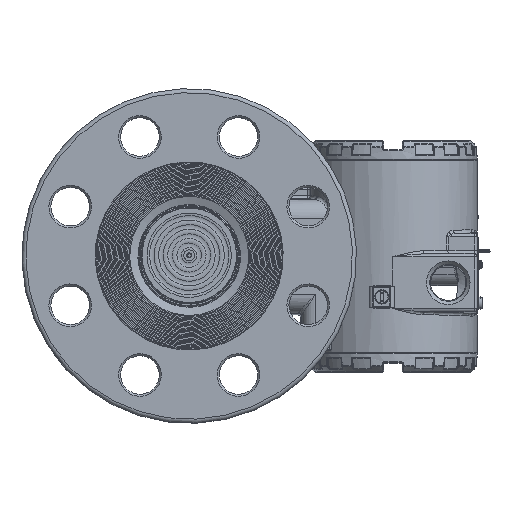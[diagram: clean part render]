
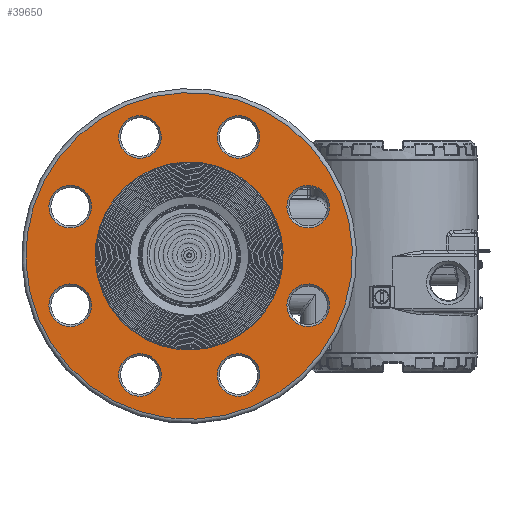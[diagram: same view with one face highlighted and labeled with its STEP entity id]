
A CAD part, top view. The second image highlights one B-rep face of the part: STEP entity #39650.
In plain terms, the highlighted planar face has unit normal (0, 0, 1).
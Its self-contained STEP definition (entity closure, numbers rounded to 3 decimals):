
#774=FACE_BOUND('',#6745,.T.);
#775=FACE_BOUND('',#6746,.T.);
#776=FACE_BOUND('',#6747,.T.);
#777=FACE_BOUND('',#6748,.T.);
#778=FACE_BOUND('',#6749,.T.);
#779=FACE_BOUND('',#6750,.T.);
#780=FACE_BOUND('',#6751,.T.);
#781=FACE_BOUND('',#6752,.T.);
#782=FACE_BOUND('',#6753,.T.);
#2811=PLANE('',#44063);
#4035=FACE_OUTER_BOUND('',#6744,.T.);
#6744=EDGE_LOOP('',(#30248));
#6745=EDGE_LOOP('',(#30249,#30250));
#6746=EDGE_LOOP('',(#30251));
#6747=EDGE_LOOP('',(#30252));
#6748=EDGE_LOOP('',(#30253));
#6749=EDGE_LOOP('',(#30254));
#6750=EDGE_LOOP('',(#30255));
#6751=EDGE_LOOP('',(#30256));
#6752=EDGE_LOOP('',(#30257));
#6753=EDGE_LOOP('',(#30258));
#12699=CIRCLE('',#44060,80.5);
#12701=CIRCLE('',#44064,46.35);
#12702=CIRCLE('',#44065,46.35);
#12703=CIRCLE('',#44066,10.5);
#12704=CIRCLE('',#44067,10.5);
#12705=CIRCLE('',#44068,10.5);
#12706=CIRCLE('',#44069,10.5);
#12707=CIRCLE('',#44070,10.5);
#12708=CIRCLE('',#44071,10.5);
#12709=CIRCLE('',#44072,10.5);
#12710=CIRCLE('',#44073,10.5);
#17317=VERTEX_POINT('',#70637);
#17319=VERTEX_POINT('',#70645);
#17320=VERTEX_POINT('',#70646);
#17321=VERTEX_POINT('',#70649);
#17322=VERTEX_POINT('',#70651);
#17323=VERTEX_POINT('',#70653);
#17324=VERTEX_POINT('',#70655);
#17325=VERTEX_POINT('',#70657);
#17326=VERTEX_POINT('',#70659);
#17327=VERTEX_POINT('',#70661);
#17328=VERTEX_POINT('',#70663);
#21884=EDGE_CURVE('',#17317,#17317,#12699,.T.);
#21887=EDGE_CURVE('',#17319,#17320,#12701,.T.);
#21888=EDGE_CURVE('',#17320,#17319,#12702,.T.);
#21889=EDGE_CURVE('',#17321,#17321,#12703,.T.);
#21890=EDGE_CURVE('',#17322,#17322,#12704,.T.);
#21891=EDGE_CURVE('',#17323,#17323,#12705,.T.);
#21892=EDGE_CURVE('',#17324,#17324,#12706,.T.);
#21893=EDGE_CURVE('',#17325,#17325,#12707,.T.);
#21894=EDGE_CURVE('',#17326,#17326,#12708,.T.);
#21895=EDGE_CURVE('',#17327,#17327,#12709,.T.);
#21896=EDGE_CURVE('',#17328,#17328,#12710,.T.);
#30248=ORIENTED_EDGE('',*,*,#21884,.F.);
#30249=ORIENTED_EDGE('',*,*,#21887,.F.);
#30250=ORIENTED_EDGE('',*,*,#21888,.F.);
#30251=ORIENTED_EDGE('',*,*,#21889,.F.);
#30252=ORIENTED_EDGE('',*,*,#21890,.F.);
#30253=ORIENTED_EDGE('',*,*,#21891,.F.);
#30254=ORIENTED_EDGE('',*,*,#21892,.F.);
#30255=ORIENTED_EDGE('',*,*,#21893,.F.);
#30256=ORIENTED_EDGE('',*,*,#21894,.F.);
#30257=ORIENTED_EDGE('',*,*,#21895,.F.);
#30258=ORIENTED_EDGE('',*,*,#21896,.F.);
#39650=ADVANCED_FACE('',(#4035,#774,#775,#776,#777,#778,#779,#780,#781,
#782),#2811,.T.);
#44060=AXIS2_PLACEMENT_3D('',#70639,#52178,#52179);
#44063=AXIS2_PLACEMENT_3D('',#70644,#52185,#52186);
#44064=AXIS2_PLACEMENT_3D('',#70647,#52187,#52188);
#44065=AXIS2_PLACEMENT_3D('',#70648,#52189,#52190);
#44066=AXIS2_PLACEMENT_3D('',#70650,#52191,#52192);
#44067=AXIS2_PLACEMENT_3D('',#70652,#52193,#52194);
#44068=AXIS2_PLACEMENT_3D('',#70654,#52195,#52196);
#44069=AXIS2_PLACEMENT_3D('',#70656,#52197,#52198);
#44070=AXIS2_PLACEMENT_3D('',#70658,#52199,#52200);
#44071=AXIS2_PLACEMENT_3D('',#70660,#52201,#52202);
#44072=AXIS2_PLACEMENT_3D('',#70662,#52203,#52204);
#44073=AXIS2_PLACEMENT_3D('',#70664,#52205,#52206);
#52178=DIRECTION('center_axis',(0.,0.,-1.));
#52179=DIRECTION('ref_axis',(-1.,0.,0.));
#52185=DIRECTION('center_axis',(0.,0.,1.));
#52186=DIRECTION('ref_axis',(1.,0.,0.));
#52187=DIRECTION('center_axis',(0.,0.,1.));
#52188=DIRECTION('ref_axis',(-1.,0.,0.));
#52189=DIRECTION('center_axis',(0.,0.,1.));
#52190=DIRECTION('ref_axis',(-1.,0.,0.));
#52191=DIRECTION('center_axis',(0.,0.,1.));
#52192=DIRECTION('ref_axis',(0.,1.,0.));
#52193=DIRECTION('center_axis',(0.,0.,1.));
#52194=DIRECTION('ref_axis',(1.,0.,0.));
#52195=DIRECTION('center_axis',(0.,0.,1.));
#52196=DIRECTION('ref_axis',(-1.,0.,0.));
#52197=DIRECTION('center_axis',(0.,0.,1.));
#52198=DIRECTION('ref_axis',(0.707,-0.707,0.));
#52199=DIRECTION('center_axis',(0.,0.,1.));
#52200=DIRECTION('ref_axis',(0.,-1.,0.));
#52201=DIRECTION('center_axis',(0.,0.,1.));
#52202=DIRECTION('ref_axis',(-0.707,-0.707,0.));
#52203=DIRECTION('center_axis',(0.,0.,1.));
#52204=DIRECTION('ref_axis',(0.707,0.707,0.));
#52205=DIRECTION('center_axis',(0.,0.,1.));
#52206=DIRECTION('ref_axis',(-0.707,0.707,0.));
#70637=CARTESIAN_POINT('',(80.5,0.,25.4));
#70639=CARTESIAN_POINT('Origin',(0.,0.,25.4));
#70644=CARTESIAN_POINT('Origin',(0.,0.,
25.4));
#70645=CARTESIAN_POINT('',(46.35,0.,25.4));
#70646=CARTESIAN_POINT('',(-46.35,0.,25.4));
#70647=CARTESIAN_POINT('Origin',(0.,0.,25.4));
#70648=CARTESIAN_POINT('Origin',(0.,0.,25.4));
#70649=CARTESIAN_POINT('',(63.5,-10.5,25.4));
#70650=CARTESIAN_POINT('Origin',(63.5,0.,25.4));
#70651=CARTESIAN_POINT('',(-10.5,-63.5,25.4));
#70652=CARTESIAN_POINT('Origin',(0.,-63.5,25.4));
#70653=CARTESIAN_POINT('',(10.5,63.5,25.4));
#70654=CARTESIAN_POINT('Origin',(0.,63.5,25.4));
#70655=CARTESIAN_POINT('',(-52.326,-37.477,25.4));
#70656=CARTESIAN_POINT('Origin',(-44.901,-44.901,25.4));
#70657=CARTESIAN_POINT('',(-63.5,10.5,25.4));
#70658=CARTESIAN_POINT('Origin',(-63.5,0.,25.4));
#70659=CARTESIAN_POINT('',(-37.477,52.326,25.4));
#70660=CARTESIAN_POINT('Origin',(-44.901,44.901,25.4));
#70661=CARTESIAN_POINT('',(37.477,-52.326,25.4));
#70662=CARTESIAN_POINT('Origin',(44.901,-44.901,25.4));
#70663=CARTESIAN_POINT('',(52.326,37.477,25.4));
#70664=CARTESIAN_POINT('Origin',(44.901,44.901,25.4));
